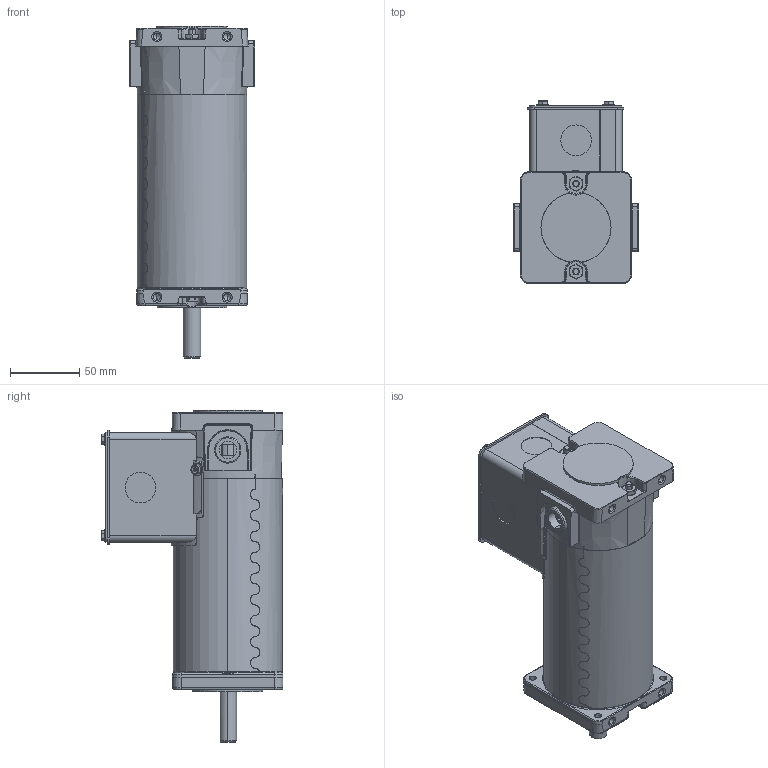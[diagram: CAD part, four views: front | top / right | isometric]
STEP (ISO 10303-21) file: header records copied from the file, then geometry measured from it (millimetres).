
FILE_DESCRIPTION (( 'STEP AP203' ), '1' );
FILE_NAME ('M1031034-M1120043_Rev14.STEP', '2017-07-31T13:43:41', ( 'admin' ), ( '' ), 'SwSTEP 2.0', 'SolidWorks 2015', '' );
FILE_SCHEMA (( 'CONFIG_CONTROL_DESIGN' ));
Length unit declared in the file: inch
Products named in the file (1): M1031034-M1120043_Rev14
Bounding box: 90.42 x 131.55 x 240.07 mm (x, y, z)
Volume: 380000.3 mm3; surface area: 224624.6 mm2
Topology: 24 solids, 24 shells, 1895 faces, 4796 edges, 2969 vertices
Faces by surface type: plane 545, cylinder 504, bspline 391, cone 185, torus 166, sphere 104
Entity records: 73056 total; most frequent: CARTESIAN_POINT 30554, ORIENTED_EDGE 9520, DIRECTION 7934, EDGE_CURVE 4760, AXIS2_PLACEMENT_3D 3102, VERTEX_POINT 2969, EDGE_LOOP 2055, FACE_OUTER_BOUND 1895
